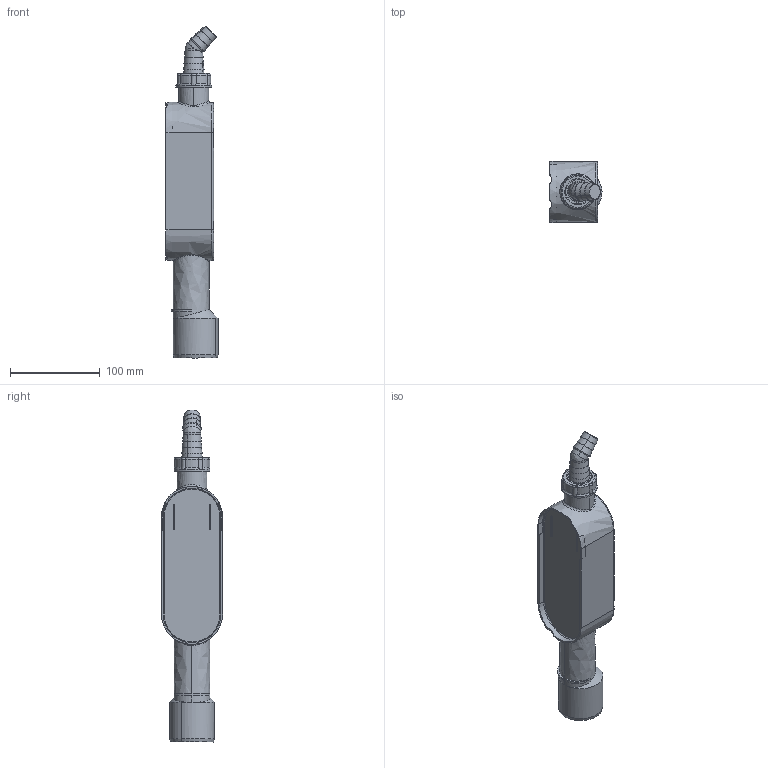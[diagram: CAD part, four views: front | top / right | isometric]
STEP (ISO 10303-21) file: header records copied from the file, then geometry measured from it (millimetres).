
FILE_DESCRIPTION(('STEP AP214'),'1');
FILE_NAME('pim0013662.stp','2016-10-07T05:44:29',('cad-pim'),('TransMagic, Inc.'),'TMR12sp0','TransMagic R12',' ');
FILE_SCHEMA(('AUTOMOTIVE_DESIGN'));
Length unit declared in the file: millimetre
Products named in the file (1): pim0013662 (1)
Bounding box: 57.99 x 68 x 369.57 mm (x, y, z)
Volume: 719442.1 mm3; surface area: 72738.5 mm2
Topology: 1 solids, 1 shells, 165 faces, 429 edges, 277 vertices
Faces by surface type: bspline 165
Entity records: 11865 total; most frequent: CARTESIAN_POINT 3682, STYLED_ITEM 870, PRESENTATION_STYLE_ASSIGNMENT 870, COLOUR_RGB 870, ORIENTED_EDGE 854, DIRECTION 467, EDGE_CURVE 427, CURVE_STYLE 427
